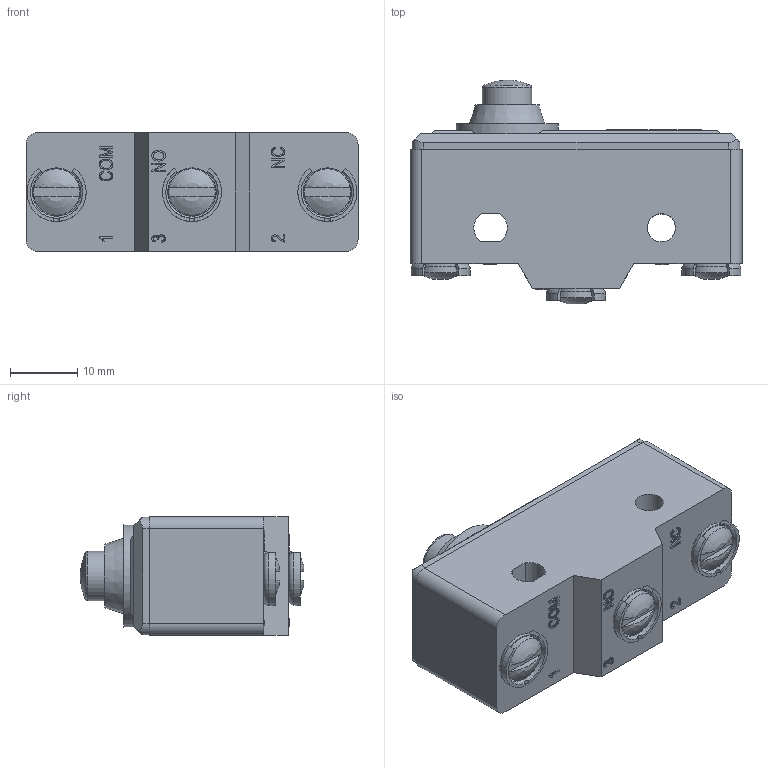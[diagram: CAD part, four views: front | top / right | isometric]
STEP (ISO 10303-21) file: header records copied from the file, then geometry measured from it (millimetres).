
FILE_DESCRIPTION((''),'2; 1');
FILE_NAME('','2026-03-27T16:26:53',(''),(''),'CST STEP Exporter V1.0','Unknown','');
FILE_SCHEMA(('CONFIG_CONTROL_DESIGN'));
Length unit declared in the file: metre
Assembly tree (9 placements, depth 2):
  (unnamed)
    (unnamed)
    (unnamed)
    (unnamed)
    (unnamed)
    (unnamed)
    (unnamed)
    (unnamed)
    (unnamed)
    (unnamed)
Bounding box: 49.4 x 33.31 x 17.7 mm (x, y, z)
Surface area: 11604.2 mm2 (no closed solid volume)
Topology: 0 solids, 9 shells, 380 faces, 1025 edges, 678 vertices
Faces by surface type: plane 272, extrusion 61, cylinder 32, torus 7, revolution 6, cone 1, sphere 1
Full cylindrical faces by diameter (mm): 4.2 x1, 6.9 x3, 7.35 x1, 15.2 x1
Entity records: 16376 total; most frequent: CARTESIAN_POINT 4079, ORIENTED_EDGE 1949, DIRECTION 1638, EDGE_CURVE 1010, VECTOR 813, LINE 752, VERTEX_POINT 672, EDGE_LOOP 434
